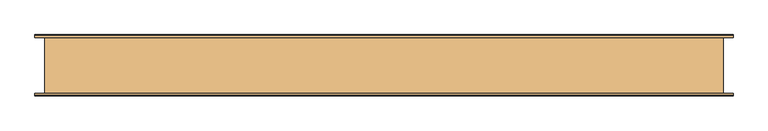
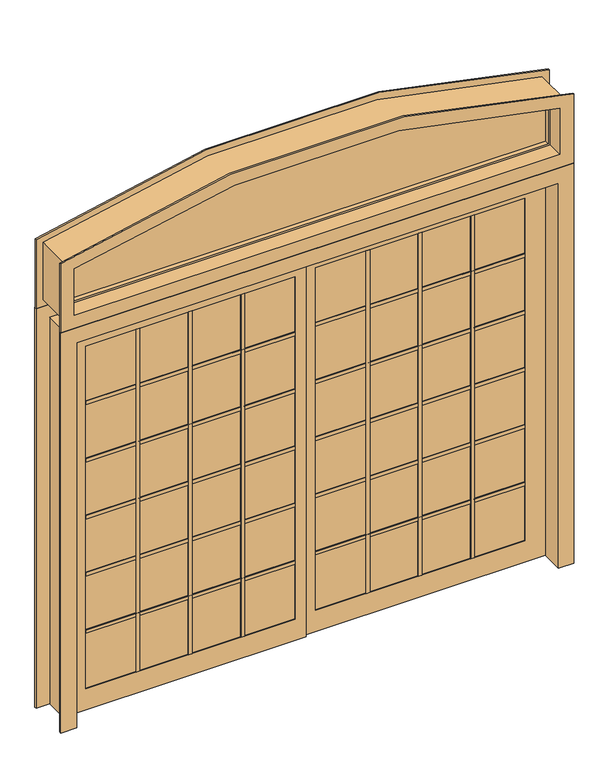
"""IFC4 building model written with IfcOpenShell, lengths in millimetres: door geometry, Pollard_Windows_Vistador Patio Doors_ATS_Extended Segmental : AVDR9580-ESW2406_GC."""

from ifc_helpers import new_model, si_unit, point, frame, frame_2d, origin, place, context, project, spatial, polyline, circle_curve, trimmed, segment, composite_curve, outline, extrude, faceted_brep, source, transform, mapped, element, save
from ifc_brep_helpers import plane_surface, cylinder_surface, revolved_surface, advanced_brep


def door_ecc9013e(model_context):
    return source(origin(), model_context, "Body", "SolidModel", [
        extrude(outline(composite_curve([segment(trimmed(circle_curve(frame_2d((-1542.3487196, 0.0)), 4139.5201123), [point((2413.1638565, 1220.47))], [point((2413.1638565, -1220.47))], False, "CARTESIAN"), True, "CONTINUOUS"), segment(polyline([(2413.1638565, -1220.47), (2135.378, -1220.47), (2135.378, 1220.47), (2413.1638565, 1220.47)]), True, "CONTINUOUS")], self_intersect=False)), frame((0.0, -2.6145378, 0.0), z_axis=(0.0, 1.0, 0.0), x_axis=(0.0, 0.0, 1.0)), (0.0, 0.0, 1.0), 5.2290756),
        advanced_brep(
        [(1220.47, -25.4, 2135.378), (1220.47, 25.4, 2135.378), (1220.47, 25.4, 2413.1638565), (1220.47, -25.4, 2413.1638565), (1190.4918258, -2.6145378, 2165.3561742), (1190.4918258, -25.4, 2165.3561742), (1190.4918258, -25.4, 2390.9786446), (1190.4918258, -2.6145378, 2390.9786446), (1200.15, 2.6145378, 2155.698), (1200.15, -2.6145378, 2155.698), (1200.15, -2.6145378, 2398.1397708), (1200.15, 2.6145378, 2398.1397708), (1190.4918258, 25.4, 2165.3561742), (1190.4918258, 2.6145378, 2165.3561742), (1190.4918258, 2.6145378, 2390.9786446), (1190.4918258, 25.4, 2390.9786446), (-1220.47, -25.4, 2413.1638565), (-1220.47, 25.4, 2413.1638565), (-1220.47, -25.4, 2135.378), (-1190.4918258, -25.4, 2390.9786446), (-1190.4918258, -25.4, 2165.3561742), (-1190.4918258, -2.6145378, 2390.9786446), (-1200.15, -2.6145378, 2398.1397708), (-1200.15, -2.6145378, 2155.698), (-1190.4918258, -2.6145378, 2165.3561742), (-1200.15, 2.6145378, 2398.1397708), (-1200.15, 2.6145378, 2155.698), (-1190.4918258, 2.6145378, 2390.9786446), (-1190.4918258, 2.6145378, 2165.3561742), (-1190.4918258, 25.4, 2390.9786446), (-1220.47, 25.4, 2135.378), (-1190.4918258, 25.4, 2165.3561742)],
        [
            (0, 1),
            (1, 2),
            (2, 3),
            (3, 0),
            (4, 5),
            (5, 6),
            (6, 7),
            (7, 4),
            (8, 9),
            (9, 10),
            (10, 11),
            (11, 8),
            (12, 13),
            (13, 14),
            (14, 15),
            (15, 12),
            (16, 3, circle_curve(frame((0.0, -25.4, -1542.3487196), z_axis=(0.0, 1.0, 0.0), x_axis=(0.2969905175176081, 0.0, 0.9548804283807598)), 4139.5201123)),
            (2, 17, circle_curve(frame((0.0, 25.4, -1542.3487196), z_axis=(0.0, -1.0, 0.0), x_axis=(0.2969905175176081, 0.0, 0.9548804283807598)), 4139.5201123)),
            (17, 16),
            (16, 18),
            (18, 0),
            (19, 6, circle_curve(frame((0.0, -25.4, -1542.3487196), z_axis=(0.0, 1.0, 0.0), x_axis=(0.2969905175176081, 0.0, 0.9548804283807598)), 4109.5419381)),
            (5, 20),
            (20, 19),
            (21, 7, circle_curve(frame((0.0, -2.6145378, -1542.3487196), z_axis=(0.0, 1.0, 0.0), x_axis=(0.2969905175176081, 0.0, 0.9548804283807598)), 4109.5419381)),
            (19, 21),
            (22, 10, circle_curve(frame((0.0, -2.6145378, -1542.3487196), z_axis=(0.0, 1.0, 0.0), x_axis=(0.2969905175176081, 0.0, 0.9548804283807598)), 4119.2001123)),
            (9, 23),
            (23, 22),
            (21, 24),
            (24, 4),
            (25, 11, circle_curve(frame((0.0, 2.6145378, -1542.3487196), z_axis=(0.0, 1.0, 0.0), x_axis=(0.2969905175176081, 0.0, 0.9548804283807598)), 4119.2001123)),
            (22, 25),
            (25, 26),
            (26, 8),
            (27, 14, circle_curve(frame((0.0, 2.6145378, -1542.3487196), z_axis=(0.0, 1.0, 0.0), x_axis=(0.2969905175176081, 0.0, 0.9548804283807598)), 4109.5419381)),
            (13, 28),
            (28, 27),
            (29, 15, circle_curve(frame((0.0, 25.4, -1542.3487196), z_axis=(0.0, 1.0, 0.0), x_axis=(0.2969905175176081, 0.0, 0.9548804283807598)), 4109.5419381)),
            (27, 29),
            (1, 30),
            (30, 17),
            (29, 31),
            (31, 12),
            (30, 18),
            (20, 24),
            (23, 26),
            (28, 31),
        ],
        [
            plane_surface(frame((1220.47, 25.4, 2135.378), z_axis=(1.0, 0.0, 0.0), x_axis=(0.0, 0.0, 1.0))),
            plane_surface(frame((1190.4918258, -25.4, 2165.3561742), z_axis=(-1.0, 0.0, 0.0), x_axis=(0.0, 0.0, 1.0))),
            plane_surface(frame((1200.15, -2.6145378, 2155.698), z_axis=(-1.0, 0.0, 0.0), x_axis=(0.0, 0.0, 1.0))),
            plane_surface(frame((1190.4918258, 2.6145378, 2165.3561742), z_axis=(-1.0, 0.0, 0.0), x_axis=(0.0, 0.0, 1.0))),
            cylinder_surface(frame((0.0, 0.0, -1542.3487196), z_axis=(0.0, -1.0, 0.0), x_axis=(0.2969905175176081, 0.0, 0.9548804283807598)), 4139.5201123),
            plane_surface(frame((0.0, -25.4, -1542.3487196), z_axis=(0.0, -1.0, 0.0), x_axis=(0.2969905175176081, 0.0, 0.9548804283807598))),
            revolved_surface(polyline([(1220.494986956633, -25.4, 2381.772446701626), (1220.494986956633, -2.6145378, 2381.772446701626)]), (0.0, 0.0, -1542.3487196), (0.0, -1.0, 0.0)),
            plane_surface(frame((0.0, -2.6145378, -1542.3487196), z_axis=(0.0, 1.0, 0.0), x_axis=(0.2969905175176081, 0.0, 0.9548804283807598))),
            revolved_surface(polyline([(1223.3633731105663, -2.6145378, 2390.994848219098), (1223.3633731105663, 2.6145378, 2390.994848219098)]), (0.0, 0.0, -1542.3487196), (0.0, -1.0, 0.0)),
            plane_surface(frame((0.0, 2.6145378, -1542.3487196), z_axis=(0.0, -1.0, 0.0), x_axis=(0.2969905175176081, 0.0, 0.9548804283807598))),
            revolved_surface(polyline([(1220.494986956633, 2.6145378, 2381.772446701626), (1220.494986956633, 25.4, 2381.772446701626)]), (0.0, 0.0, -1542.3487196), (0.0, -1.0, 0.0)),
            plane_surface(frame((0.0, 25.4, -1542.3487196), z_axis=(0.0, 1.0, 0.0), x_axis=(0.2969905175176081, 0.0, 0.9548804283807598))),
            plane_surface(frame((-1220.47, 25.4, 2413.1638565), z_axis=(-1.0, 0.0, 0.0), x_axis=(0.0, 0.0, -1.0))),
            plane_surface(frame((-1190.4918258, -25.4, 2390.9786446), z_axis=(1.0, 0.0, 0.0), x_axis=(0.0, 0.0, -1.0))),
            plane_surface(frame((-1200.15, -2.6145378, 2398.1397708), z_axis=(1.0, 0.0, 0.0), x_axis=(0.0, 0.0, -1.0))),
            plane_surface(frame((-1190.4918258, 2.6145378, 2390.9786446), z_axis=(1.0, 0.0, 0.0), x_axis=(0.0, 0.0, -1.0))),
            plane_surface(frame((-1220.47, 25.4, 2135.378), z_axis=(0.0, 0.0, -1.0), x_axis=(1.0, 0.0, 0.0))),
            plane_surface(frame((-1190.4918258, -25.4, 2165.3561742), z_axis=(0.0, 0.0, 1.0), x_axis=(1.0, 0.0, 0.0))),
            plane_surface(frame((-1200.15, -2.6145378, 2155.698), z_axis=(0.0, 0.0, 1.0), x_axis=(1.0, 0.0, 0.0))),
            plane_surface(frame((-1190.4918258, 2.6145378, 2165.3561742), z_axis=(0.0, 0.0, 1.0), x_axis=(1.0, 0.0, 0.0))),
        ],
        [
            (0, [[1, 2, 3, 4]]),
            (1, [[5, 6, 7, 8]]),
            (2, [[9, 10, 11, 12]]),
            (3, [[13, 14, 15, 16]]),
            (4, [[17, -3, 18, 19]]),
            (5, [[-17, 20, 21, -4], [22, -6, 23, 24]]),
            (6, [[25, -7, -22, 26]]),
            (7, [[27, -10, 28, 29], [-25, 30, 31, -8]]),
            (8, [[32, -11, -27, 33]]),
            (9, [[-32, 34, 35, -12], [36, -14, 37, 38]]),
            (10, [[39, -15, -36, 40]]),
            (11, [[-18, -2, 41, 42], [-39, 43, 44, -16]]),
            (12, [[-19, -42, 45, -20]]),
            (13, [[-26, -24, 46, -30]]),
            (14, [[-33, -29, 47, -34]]),
            (15, [[-40, -38, 48, -43]]),
            (16, [[-45, -41, -1, -21]]),
            (17, [[-46, -23, -5, -31]]),
            (18, [[-47, -28, -9, -35]]),
            (19, [[-48, -37, -13, -44]]),
        ],
    ),
        advanced_brep(
        [(-1268.349, -107.95, 2448.3407121), (-1268.349, -101.6, 2448.3407121), (-1268.349, -101.6, 2087.499), (-1268.349, -107.95, 2087.499), (-1200.15, -25.4, 2398.1397708), (-1200.15, -101.6, 2398.1397708), (-1200.15, -107.95, 2398.1397708), (-1200.15, -107.95, 2155.698), (-1200.15, -25.4, 2155.698), (-1220.47, 25.4, 2413.1638565), (-1220.47, -25.4, 2413.1638565), (-1220.47, -25.4, 2135.378), (-1220.47, 25.4, 2135.378), (-1200.15, 107.95, 2398.1397708), (-1200.15, 25.4, 2398.1397708), (-1200.15, 25.4, 2155.698), (-1200.15, 107.95, 2155.698), (-1268.349, 101.6, 2448.3407121), (-1268.349, 107.95, 2448.3407121), (-1268.349, 107.95, 2087.499), (-1268.349, 101.6, 2087.499), (-1233.17, -101.6, 2422.525), (-1233.17, 101.6, 2422.525), (-1233.17, 101.6, 2122.678), (-1233.17, -101.6, 2122.678), (1268.349, -101.6, 2087.499), (1268.349, -107.95, 2087.499), (1200.15, -107.95, 2155.698), (1200.15, -25.4, 2155.698), (1220.47, -25.4, 2135.378), (1220.47, 25.4, 2135.378), (1200.15, 25.4, 2155.698), (1200.15, 107.95, 2155.698), (1268.349, 107.95, 2087.499), (1268.349, 101.6, 2087.499), (1233.17, 101.6, 2122.678), (1233.17, -101.6, 2122.678), (1268.349, -101.6, 2448.3407121), (1268.349, -107.95, 2448.3407121), (1200.15, -107.95, 2398.1397708), (1200.15, -101.6, 2398.1397708), (1200.15, -25.4, 2398.1397708), (1220.47, -25.4, 2413.1638565), (1220.47, 25.4, 2413.1638565), (1200.15, 25.4, 2398.1397708), (1200.15, 107.95, 2398.1397708), (1268.349, 107.95, 2448.3407121), (1268.349, 101.6, 2448.3407121), (1233.17, 101.6, 2422.525), (1233.17, -101.6, 2422.525)],
        [
            (0, 1),
            (1, 2),
            (2, 3),
            (3, 0),
            (4, 5),
            (5, 6),
            (6, 7),
            (7, 8),
            (8, 4),
            (9, 10),
            (10, 11),
            (11, 12),
            (12, 9),
            (13, 14),
            (14, 15),
            (15, 16),
            (16, 13),
            (17, 18),
            (18, 19),
            (19, 20),
            (20, 17),
            (21, 22),
            (22, 23),
            (23, 24),
            (24, 21),
            (2, 25),
            (25, 26),
            (26, 3),
            (7, 27),
            (27, 28),
            (28, 8),
            (11, 29),
            (29, 30),
            (30, 12),
            (15, 31),
            (31, 32),
            (32, 16),
            (19, 33),
            (33, 34),
            (34, 20),
            (23, 35),
            (35, 36),
            (36, 24),
            (25, 37),
            (37, 38),
            (38, 26),
            (27, 39),
            (39, 40),
            (40, 41),
            (41, 28),
            (29, 42),
            (42, 43),
            (43, 30),
            (31, 44),
            (44, 45),
            (45, 32),
            (33, 46),
            (46, 47),
            (47, 34),
            (35, 48),
            (48, 49),
            (49, 36),
            (1, 37, circle_curve(frame((0.0, -101.6, -1542.3487196), z_axis=(0.0, 1.0, 0.0), x_axis=(0.2969905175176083, 0.0, 0.9548804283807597)), 4187.3991123)),
            (49, 21, circle_curve(frame((0.0, -101.6, -1542.3487196), z_axis=(0.0, -1.0, 0.0), x_axis=(0.2969905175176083, 0.0, 0.9548804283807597)), 4152.2201123)),
            (0, 38, circle_curve(frame((0.0, -107.95, -1542.3487196), z_axis=(0.0, 1.0, 0.0), x_axis=(0.2969905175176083, 0.0, 0.9548804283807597)), 4187.3991123)),
            (6, 39, circle_curve(frame((0.0, -107.95, -1542.3487196), z_axis=(0.0, 1.0, 0.0), x_axis=(0.2969905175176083, 0.0, 0.9548804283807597)), 4119.2001123)),
            (5, 40, circle_curve(frame((0.0, -101.6, -1542.3487196), z_axis=(0.0, 1.0, 0.0), x_axis=(0.2969905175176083, 0.0, 0.9548804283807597)), 4119.2001123)),
            (4, 41, circle_curve(frame((0.0, -25.4, -1542.3487196), z_axis=(0.0, 1.0, 0.0), x_axis=(0.2969905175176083, 0.0, 0.9548804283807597)), 4119.2001123)),
            (10, 42, circle_curve(frame((0.0, -25.4, -1542.3487196), z_axis=(0.0, 1.0, 0.0), x_axis=(0.2969905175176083, 0.0, 0.9548804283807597)), 4139.5201123)),
            (9, 43, circle_curve(frame((0.0, 25.4, -1542.3487196), z_axis=(0.0, 1.0, 0.0), x_axis=(0.2969905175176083, 0.0, 0.9548804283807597)), 4139.5201123)),
            (14, 44, circle_curve(frame((0.0, 25.4, -1542.3487196), z_axis=(0.0, 1.0, 0.0), x_axis=(0.2969905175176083, 0.0, 0.9548804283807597)), 4119.2001123)),
            (13, 45, circle_curve(frame((0.0, 107.95, -1542.3487196), z_axis=(0.0, 1.0, 0.0), x_axis=(0.2969905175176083, 0.0, 0.9548804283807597)), 4119.2001123)),
            (18, 46, circle_curve(frame((0.0, 107.95, -1542.3487196), z_axis=(0.0, 1.0, 0.0), x_axis=(0.2969905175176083, 0.0, 0.9548804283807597)), 4187.3991123)),
            (17, 47, circle_curve(frame((0.0, 101.6, -1542.3487196), z_axis=(0.0, 1.0, 0.0), x_axis=(0.2969905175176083, 0.0, 0.9548804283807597)), 4187.3991123)),
            (22, 48, circle_curve(frame((0.0, 101.6, -1542.3487196), z_axis=(0.0, 1.0, 0.0), x_axis=(0.2969905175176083, 0.0, 0.9548804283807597)), 4152.2201123)),
        ],
        [
            plane_surface(frame((-1268.349, -101.6, 2448.3407121), z_axis=(-1.0, 0.0, 0.0), x_axis=(0.0, 0.0, -1.0))),
            plane_surface(frame((-1200.15, -101.6, 2398.1397708), z_axis=(1.0, 0.0, 0.0), x_axis=(0.0, 0.0, -1.0))),
            plane_surface(frame((-1220.47, -25.4, 2413.1638565), z_axis=(1.0, 0.0, 0.0), x_axis=(0.0, 0.0, -1.0))),
            plane_surface(frame((-1200.15, 25.4, 2398.1397708), z_axis=(1.0, 0.0, 0.0), x_axis=(0.0, 0.0, -1.0))),
            plane_surface(frame((-1268.349, 107.95, 2448.3407121), z_axis=(-1.0, 0.0, 0.0), x_axis=(0.0, 0.0, -1.0))),
            plane_surface(frame((-1233.17, 101.6, 2422.525), z_axis=(-1.0, 0.0, 0.0), x_axis=(0.0, 0.0, -1.0))),
            plane_surface(frame((-1268.349, -101.6, 2087.499), z_axis=(0.0, 0.0, -1.0), x_axis=(1.0, 0.0, 0.0))),
            plane_surface(frame((-1200.15, -101.6, 2155.698), z_axis=(0.0, 0.0, 1.0), x_axis=(1.0, 0.0, 0.0))),
            plane_surface(frame((-1220.47, -25.4, 2135.378), z_axis=(0.0, 0.0, 1.0), x_axis=(1.0, 0.0, 0.0))),
            plane_surface(frame((-1200.15, 25.4, 2155.698), z_axis=(0.0, 0.0, 1.0), x_axis=(1.0, 0.0, 0.0))),
            plane_surface(frame((-1268.349, 107.95, 2087.499), z_axis=(0.0, 0.0, -1.0), x_axis=(1.0, 0.0, 0.0))),
            plane_surface(frame((-1233.17, 101.6, 2122.678), z_axis=(0.0, 0.0, -1.0), x_axis=(1.0, 0.0, 0.0))),
            plane_surface(frame((1268.349, -101.6, 2087.499), z_axis=(1.0, 0.0, 0.0), x_axis=(0.0, 0.0, 1.0))),
            plane_surface(frame((1200.15, -101.6, 2155.698), z_axis=(-1.0, 0.0, 0.0), x_axis=(0.0, 0.0, 1.0))),
            plane_surface(frame((1220.47, -25.4, 2135.378), z_axis=(-1.0, 0.0, 0.0), x_axis=(0.0, 0.0, 1.0))),
            plane_surface(frame((1200.15, 25.4, 2155.698), z_axis=(-1.0, 0.0, 0.0), x_axis=(0.0, 0.0, 1.0))),
            plane_surface(frame((1268.349, 107.95, 2087.499), z_axis=(1.0, 0.0, 0.0), x_axis=(0.0, 0.0, 1.0))),
            plane_surface(frame((1233.17, 101.6, 2122.678), z_axis=(1.0, 0.0, 0.0), x_axis=(0.0, 0.0, 1.0))),
            plane_surface(frame((0.0, -101.6, -1542.3487196), z_axis=(0.0, 1.0, 0.0), x_axis=(0.2969905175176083, 0.0, 0.9548804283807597))),
            cylinder_surface(frame((0.0, 101.6, -1542.3487196), z_axis=(0.0, -1.0, 0.0), x_axis=(0.2969905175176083, 0.0, 0.9548804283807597)), 4187.3991123),
            plane_surface(frame((0.0, -107.95, -1542.3487196), z_axis=(0.0, -1.0, 0.0), x_axis=(0.2969905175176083, 0.0, 0.9548804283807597))),
            revolved_surface(polyline([(1223.3633731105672, -107.95000000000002, 2390.9948482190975), (1223.3633731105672, -101.6, 2390.9948482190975)]), (0.0, 101.6, -1542.3487196), (0.0, -1.0, 0.0)),
            revolved_surface(polyline([(1223.3633731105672, -101.6, 2390.9948482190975), (1223.3633731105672, -25.400000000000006, 2390.9948482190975)]), (0.0, 101.6, -1542.3487196), (0.0, -1.0, 0.0)),
            plane_surface(frame((0.0, -25.4, -1542.3487196), z_axis=(0.0, 1.0, 0.0), x_axis=(0.2969905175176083, 0.0, 0.9548804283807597))),
            revolved_surface(polyline([(1229.3982204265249, -25.400000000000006, 2410.3980185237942), (1229.3982204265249, 25.400000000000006, 2410.3980185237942)]), (0.0, 101.6, -1542.3487196), (0.0, -1.0, 0.0)),
            plane_surface(frame((0.0, 25.4, -1542.3487196), z_axis=(0.0, -1.0, 0.0), x_axis=(0.2969905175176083, 0.0, 0.9548804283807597))),
            revolved_surface(polyline([(1223.3633731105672, 25.400000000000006, 2390.9948482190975), (1223.3633731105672, 107.95, 2390.9948482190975)]), (0.0, 101.6, -1542.3487196), (0.0, -1.0, 0.0)),
            plane_surface(frame((0.0, 107.95, -1542.3487196), z_axis=(0.0, 1.0, 0.0), x_axis=(0.2969905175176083, 0.0, 0.9548804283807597))),
            plane_surface(frame((0.0, 101.6, -1542.3487196), z_axis=(0.0, -1.0, 0.0), x_axis=(0.2969905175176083, 0.0, 0.9548804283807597))),
            cylinder_surface(frame((0.0, 101.6, -1542.3487196), z_axis=(0.0, -1.0, 0.0), x_axis=(0.2969905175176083, 0.0, 0.9548804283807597)), 4152.2201123),
        ],
        [
            (0, [[1, 2, 3, 4]]),
            (1, [[5, 6, 7, 8, 9]]),
            (2, [[10, 11, 12, 13]]),
            (3, [[14, 15, 16, 17]]),
            (4, [[18, 19, 20, 21]]),
            (5, [[22, 23, 24, 25]]),
            (6, [[-3, 26, 27, 28]]),
            (7, [[-8, 29, 30, 31]]),
            (8, [[-12, 32, 33, 34]]),
            (9, [[-16, 35, 36, 37]]),
            (10, [[-20, 38, 39, 40]]),
            (11, [[-24, 41, 42, 43]]),
            (12, [[-27, 44, 45, 46]]),
            (13, [[-30, 47, 48, 49, 50]]),
            (14, [[-33, 51, 52, 53]]),
            (15, [[-36, 54, 55, 56]]),
            (16, [[-39, 57, 58, 59]]),
            (17, [[-42, 60, 61, 62]]),
            (18, [[63, -44, -26, -2], [-43, -62, 64, -25]]),
            (19, [[65, -45, -63, -1]]),
            (20, [[-28, -46, -65, -4], [66, -47, -29, -7]]),
            (21, [[67, -48, -66, -6]]),
            (22, [[68, -49, -67, -5]]),
            (23, [[69, -51, -32, -11], [-31, -50, -68, -9]]),
            (24, [[70, -52, -69, -10]]),
            (25, [[-34, -53, -70, -13], [71, -54, -35, -15]]),
            (26, [[72, -55, -71, -14]]),
            (27, [[73, -57, -38, -19], [-37, -56, -72, -17]]),
            (19, [[74, -58, -73, -18]]),
            (28, [[-40, -59, -74, -21], [75, -60, -41, -23]]),
            (29, [[-64, -61, -75, -22]]),
        ],
    ),
        extrude(outline(polyline([(-54.991, -10.0399998), (-1090.168, -10.0399998), (-1090.168, -4.9599998), (-54.991, -4.9599998), (-54.991, -10.0399998)])), frame((0.0, 0.0, 109.982), z_axis=(0.0, 0.0, 1.0), x_axis=(1.0, 0.0, 0.0)), (0.0, 0.0, 1.0), 1790.586),
        extrude(outline(polyline([(840.37375, 14.9999996), (840.37375, 9.9999998), (835.37375, 9.9999998), (835.37375, 4.9999998), (840.37375, 4.9999998), (840.37375, 0.0), (822.37375, 0.0), (822.37375, 4.9999998), (827.37375, 4.9999998), (827.37375, 9.9999998), (822.37375, 9.9999998), (822.37375, 14.9999996), (840.37375, 14.9999996)])), frame((0.0, 0.0, 109.982), z_axis=(0.0, 0.0, 1.0), x_axis=(1.0, 0.0, 0.0)), (0.0, 0.0, 1.0), 1790.586),
        extrude(outline(polyline([(322.78525, 14.9999996), (322.78525, 9.9999998), (317.78525, 9.9999998), (317.78525, 4.9999998), (322.78525, 4.9999998), (322.78525, 0.0), (304.78525, 0.0), (304.78525, 4.9999998), (309.78525, 4.9999998), (309.78525, 9.9999998), (304.78525, 9.9999998), (304.78525, 14.9999996), (322.78525, 14.9999996)])), frame((0.0, 0.0, 109.982), z_axis=(0.0, 0.0, 1.0), x_axis=(1.0, 0.0, 0.0)), (0.0, 0.0, 1.0), 1790.586),
        extrude(outline(polyline([(581.5795, 14.9999996), (581.5795, 9.9999998), (576.5795, 9.9999998), (576.5795, 4.9999998), (581.5795, 4.9999998), (581.5795, 0.0), (563.5795, 0.0), (563.5795, 4.9999998), (568.5795, 4.9999998), (568.5795, 9.9999998), (563.5795, 9.9999998), (563.5795, 14.9999996), (581.5795, 14.9999996)])), frame((0.0, 0.0, 109.982), z_axis=(0.0, 0.0, 1.0), x_axis=(1.0, 0.0, 0.0)), (0.0, 0.0, 1.0), 1790.586),
        extrude(outline(polyline([(-304.78525, 0.0), (-304.78525, -4.9999998), (-309.78525, -4.9999998), (-309.78525, -9.9999998), (-304.78525, -9.9999998), (-304.78525, -14.9999996), (-322.78525, -14.9999996), (-322.78525, -9.9999998), (-317.78525, -9.9999998), (-317.78525, -4.9999998), (-322.78525, -4.9999998), (-322.78525, 0.0), (-304.78525, 0.0)])), frame((0.0, 0.0, 109.982), z_axis=(0.0, 0.0, 1.0), x_axis=(1.0, 0.0, 0.0)), (0.0, 0.0, 1.0), 1790.586),
        extrude(outline(polyline([(-822.37375, 0.0), (-822.37375, -4.9999998), (-827.37375, -4.9999998), (-827.37375, -9.9999998), (-822.37375, -9.9999998), (-822.37375, -14.9999996), (-840.37375, -14.9999996), (-840.37375, -9.9999998), (-835.37375, -9.9999998), (-835.37375, -4.9999998), (-840.37375, -4.9999998), (-840.37375, 0.0), (-822.37375, 0.0)])), frame((0.0, 0.0, 109.982), z_axis=(0.0, 0.0, 1.0), x_axis=(1.0, 0.0, 0.0)), (0.0, 0.0, 1.0), 1790.586),
        extrude(outline(polyline([(-563.5795, 0.0), (-563.5795, -4.9999998), (-568.5795, -4.9999998), (-568.5795, -9.9999998), (-563.5795, -9.9999998), (-563.5795, -14.9999996), (-581.5795, -14.9999996), (-581.5795, -9.9999998), (-576.5795, -9.9999998), (-576.5795, -4.9999998), (-581.5795, -4.9999998), (-581.5795, 0.0), (-563.5795, 0.0)])), frame((0.0, 0.0, 109.982), z_axis=(0.0, 0.0, 1.0), x_axis=(1.0, 0.0, 0.0)), (0.0, 0.0, 1.0), 1790.586),
        extrude(outline(polyline([(54.991, 10.0399998), (1090.168, 10.0399998), (1090.168, 4.9599998), (54.991, 4.9599998), (54.991, 10.0399998)])), frame((0.0, 0.0, 109.982), z_axis=(0.0, 0.0, 1.0), x_axis=(1.0, 0.0, 0.0)), (0.0, 0.0, 1.0), 1790.586),
        extrude(outline(polyline([(2010.55, 1191.4), (2010.55, 0.0), (0.0, 0.0), (0.0, 1191.4), (2010.55, 1191.4)]), holes=[polyline([(109.982, 1090.168), (109.982, 54.991), (1900.568, 54.991), (1900.568, 1090.168), (109.982, 1090.168)])]), frame((0.0, 0.0, 0.0), z_axis=(0.0, 1.0, 0.0), x_axis=(0.0, 0.0, 1.0)), (0.0, 0.0, 1.0), 14.9999996),
        extrude(outline(polyline([(2010.55, -1191.4), (0.0, -1191.4), (0.0, 0.0), (2010.55, 0.0), (2010.55, -1191.4)]), holes=[polyline([(1900.568, -1090.168), (1900.568, -54.991), (109.982, -54.991), (109.982, -1090.168), (1900.568, -1090.168)])]), frame((0.0, -14.9999996, 0.0), z_axis=(0.0, 1.0, 0.0), x_axis=(0.0, 0.0, 1.0)), (0.0, 0.0, 1.0), 14.9999996),
        faceted_brep([(1268.349, 111.6, 0.0), (1268.349, 101.6, 0.0), (1200.15, 101.6, 0.0), (1200.15, -101.6, 0.0), (1268.349, -101.6, 0.0), (1268.349, -111.6, 0.0), (1191.4, -111.6, 0.0), (1191.4, 111.6, 0.0), (1268.349, 111.6, 2087.499), (1268.349, 101.6, 2087.499), (-1268.349, 101.6, 2087.499), (-1268.349, 101.6, 0.0), (-1200.15, 101.6, 0.0), (-1200.15, 101.6, 2019.3), (1200.15, 101.6, 2019.3), (1200.15, -101.6, 2019.3), (-1200.15, -101.6, 2019.3), (-1200.15, -101.6, 0.0), (-1268.349, -101.6, 0.0), (-1268.349, -101.6, 2087.499), (1268.349, -101.6, 2087.499), (1268.349, -111.6, 2087.499), (-1268.349, -111.6, 2087.499), (-1268.349, -111.6, 0.0), (-1191.4, -111.6, 0.0), (-1191.4, -111.6, 2010.55), (1191.4, -111.6, 2010.55), (1191.4, 111.6, 2010.55), (-1191.4, 111.6, 2010.55), (-1191.4, 111.6, 0.0), (-1268.349, 111.6, 0.0), (-1268.349, 111.6, 2087.499)], [[[0, 1, 2, 3, 4, 5, 6, 7]], [[1, 0, 8, 9]], [[2, 1, 9, 10, 11, 12, 13, 14]], [[2, 14, 15, 3]], [[4, 3, 15, 16, 17, 18, 19, 20]], [[5, 4, 20, 21]], [[6, 5, 21, 22, 23, 24, 25, 26]], [[6, 26, 27, 7]], [[0, 7, 27, 28, 29, 30, 31, 8]], [[30, 29, 24, 23, 18, 17, 12, 11]], [[28, 25, 24, 29]], [[22, 19, 18, 23]], [[16, 13, 12, 17]], [[10, 31, 30, 11]], [[9, 8, 31, 10]], [[27, 26, 25, 28]], [[15, 14, 13, 16]], [[21, 20, 19, 22]]]),
        extrude(outline(polyline([(14.9999996, 1014.275), (14.9999996, 996.275), (9.9999998, 996.275), (9.9999998, 1001.275), (4.9999998, 1001.275), (4.9999998, 996.275), (0.0, 996.275), (0.0, 1014.275), (4.9999998, 1014.275), (4.9999998, 1009.275), (9.9999998, 1009.275), (9.9999998, 1014.275), (14.9999996, 1014.275)])), frame((54.991, 0.0, 0.0), z_axis=(1.0, 0.0, 0.0), x_axis=(0.0, 1.0, 0.0)), (0.0, 0.0, 1.0), 1035.177),
        extrude(outline(polyline([(14.9999996, 1611.137), (14.9999996, 1593.137), (9.9999998, 1593.137), (9.9999998, 1598.137), (4.9999998, 1598.137), (4.9999998, 1593.137), (0.0, 1593.137), (0.0, 1611.137), (4.9999998, 1611.137), (4.9999998, 1606.137), (9.9999998, 1606.137), (9.9999998, 1611.137), (14.9999996, 1611.137)])), frame((54.991, 0.0, 0.0), z_axis=(1.0, 0.0, 0.0), x_axis=(0.0, 1.0, 0.0)), (0.0, 0.0, 1.0), 1035.177),
        extrude(outline(polyline([(-14.9999996, 1593.137), (-14.9999996, 1611.137), (-9.9999998, 1611.137), (-9.9999998, 1606.137), (-4.9999998, 1606.137), (-4.9999998, 1611.137), (0.0, 1611.137), (0.0, 1593.137), (-4.9999998, 1593.137), (-4.9999998, 1598.137), (-9.9999998, 1598.137), (-9.9999998, 1593.137), (-14.9999996, 1593.137)])), frame((-1090.168, 0.0, 0.0), z_axis=(1.0, 0.0, 0.0), x_axis=(0.0, 1.0, 0.0)), (0.0, 0.0, 1.0), 1035.177),
        extrude(outline(polyline([(14.9999996, 1312.706), (14.9999996, 1294.706), (9.9999998, 1294.706), (9.9999998, 1299.706), (4.9999998, 1299.706), (4.9999998, 1294.706), (0.0, 1294.706), (0.0, 1312.706), (4.9999998, 1312.706), (4.9999998, 1307.706), (9.9999998, 1307.706), (9.9999998, 1312.706), (14.9999996, 1312.706)])), frame((54.991, 0.0, 0.0), z_axis=(1.0, 0.0, 0.0), x_axis=(0.0, 1.0, 0.0)), (0.0, 0.0, 1.0), 1035.177),
        extrude(outline(polyline([(-14.9999996, 1294.706), (-14.9999996, 1312.706), (-9.9999998, 1312.706), (-9.9999998, 1307.706), (-4.9999998, 1307.706), (-4.9999998, 1312.706), (0.0, 1312.706), (0.0, 1294.706), (-4.9999998, 1294.706), (-4.9999998, 1299.706), (-9.9999998, 1299.706), (-9.9999998, 1294.706), (-14.9999996, 1294.706)])), frame((-1090.168, 0.0, 0.0), z_axis=(1.0, 0.0, 0.0), x_axis=(0.0, 1.0, 0.0)), (0.0, 0.0, 1.0), 1035.177),
        extrude(outline(polyline([(14.9999996, 715.844), (14.9999996, 697.844), (9.9999998, 697.844), (9.9999998, 702.844), (4.9999998, 702.844), (4.9999998, 697.844), (0.0, 697.844), (0.0, 715.844), (4.9999998, 715.844), (4.9999998, 710.844), (9.9999998, 710.844), (9.9999998, 715.844), (14.9999996, 715.844)])), frame((54.991, 0.0, 0.0), z_axis=(1.0, 0.0, 0.0), x_axis=(0.0, 1.0, 0.0)), (0.0, 0.0, 1.0), 1035.177),
        extrude(outline(polyline([(-14.9999996, 697.844), (-14.9999996, 715.844), (-9.9999998, 715.844), (-9.9999998, 710.844), (-4.9999998, 710.844), (-4.9999998, 715.844), (0.0, 715.844), (0.0, 697.844), (-4.9999998, 697.844), (-4.9999998, 702.844), (-9.9999998, 702.844), (-9.9999998, 697.844), (-14.9999996, 697.844)])), frame((-1090.168, 0.0, 0.0), z_axis=(1.0, 0.0, 0.0), x_axis=(0.0, 1.0, 0.0)), (0.0, 0.0, 1.0), 1035.177),
        extrude(outline(polyline([(14.9999996, 417.413), (14.9999996, 399.413), (9.9999998, 399.413), (9.9999998, 404.413), (4.9999998, 404.413), (4.9999998, 399.413), (0.0, 399.413), (0.0, 417.413), (4.9999998, 417.413), (4.9999998, 412.413), (9.9999998, 412.413), (9.9999998, 417.413), (14.9999996, 417.413)])), frame((54.991, 0.0, 0.0), z_axis=(1.0, 0.0, 0.0), x_axis=(0.0, 1.0, 0.0)), (0.0, 0.0, 1.0), 1035.177),
        extrude(outline(polyline([(-14.9999996, 399.413), (-14.9999996, 417.413), (-9.9999998, 417.413), (-9.9999998, 412.413), (-4.9999998, 412.413), (-4.9999998, 417.413), (0.0, 417.413), (0.0, 399.413), (-4.9999998, 399.413), (-4.9999998, 404.413), (-9.9999998, 404.413), (-9.9999998, 399.413), (-14.9999996, 399.413)])), frame((-1090.168, 0.0, 0.0), z_axis=(1.0, 0.0, 0.0), x_axis=(0.0, 1.0, 0.0)), (0.0, 0.0, 1.0), 1035.177),
        extrude(outline(polyline([(-14.9999996, 996.275), (-14.9999996, 1014.275), (-9.9999998, 1014.275), (-9.9999998, 1009.275), (-4.9999998, 1009.275), (-4.9999998, 1014.275), (0.0, 1014.275), (0.0, 996.275), (-4.9999998, 996.275), (-4.9999998, 1001.275), (-9.9999998, 1001.275), (-9.9999998, 996.275), (-14.9999996, 996.275)])), frame((-1090.168, 0.0, 0.0), z_axis=(1.0, 0.0, 0.0), x_axis=(0.0, 1.0, 0.0)), (0.0, 0.0, 1.0), 1035.177),
    ])


if __name__ == "__main__":
    model = new_model("IFC4")
    model_context = context("Model", 3, world=origin())
    ifc_project = project(units=[si_unit("LENGTHUNIT", "METRE", prefix="MILLI")], contexts=[model_context])
    site = spatial("IfcSite", under=ifc_project)
    building = spatial("IfcBuilding", under=site)
    placement = place(None, origin())
    door_shape = door_ecc9013e(model_context)
    element("IfcDoor", 1, ObjectType="Pollard_Windows_Vistador Patio Doors_ATS_Extended Segmental : AVDR9580-ESW2406_GC", at=placement, inside=building, context=model_context, shape_type="MappedRepresentation", body=[
        mapped(door_shape, transform((0.0, 0.0, 0.0), x_axis=(1.0, 0.0, 0.0), y_axis=(0.0, 1.0, 0.0), z_axis=(0.0, 0.0, 1.0))),
    ])
    save(model, "model.ifc")
